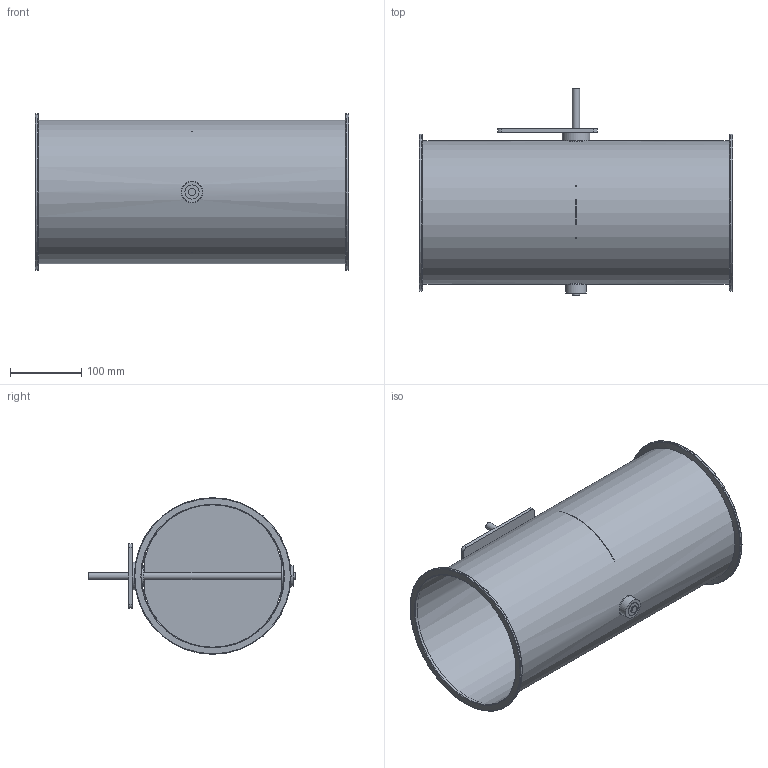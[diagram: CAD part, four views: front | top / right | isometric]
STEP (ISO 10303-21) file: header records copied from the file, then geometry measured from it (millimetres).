
FILE_DESCRIPTION(/* description */ (''),/* implementation_level */ '2;1');
FILE_NAME(/* name */ 'EA101-80B__200_L250_Belimo_Typ_NM.stp',/* time_stamp */ '2017-12-06T14:09:56+01:00',/* author */ (''),/* organization */ (''),/* preprocessor_version */ 'ST-DEVELOPER v11',/* originating_system */ 'SIEMENS UGS NX 6.0',/* authorisation */ '');
FILE_SCHEMA (('CONFIG_CONTROL_DESIGN'));
Length unit declared in the file: millimetre
Products named in the file (1): gars18E2j25t
Bounding box: 440 x 290 x 220 mm (x, y, z)
Volume: 418471.4 mm3; surface area: 688590.5 mm2
Topology: 8 solids, 8 shells, 59 faces, 123 edges, 82 vertices
Faces by surface type: cylinder 27, plane 24, torus 6, cone 2
Full cylindrical faces by diameter (mm): 4.1 x3, 10 x3, 19 x3, 19.85 x2, 20 x2, 29 x1, 30 x2, 39 x1, 200 x1, 201.6 x1, 220 x2
Entity records: 1534 total; most frequent: CARTESIAN_POINT 284, DIRECTION 256, ORIENTED_EDGE 168, AXIS2_PLACEMENT_3D 116, EDGE_LOOP 112, FACE_BOUND 98, EDGE_CURVE 84, VERTEX_POINT 72
